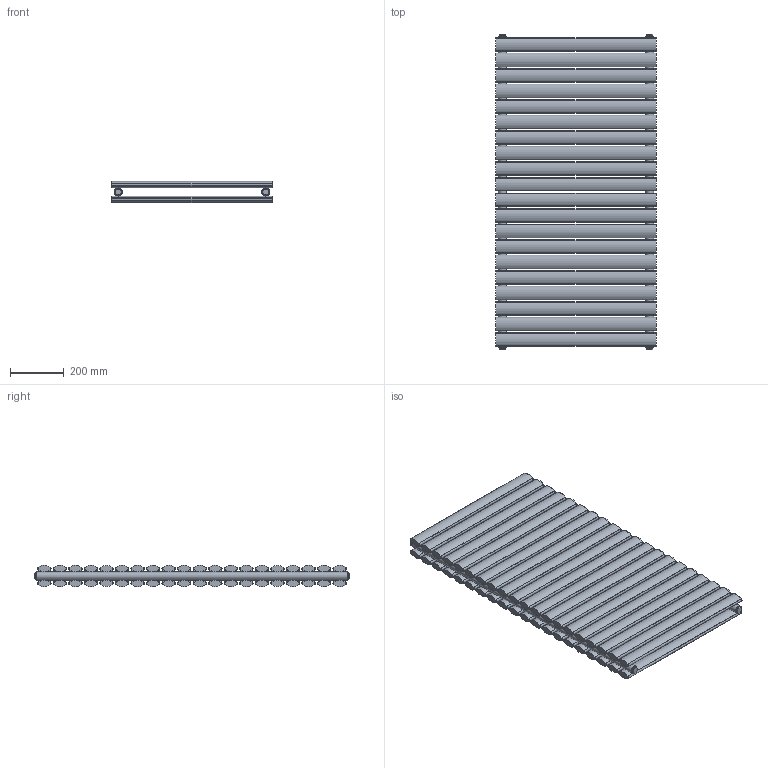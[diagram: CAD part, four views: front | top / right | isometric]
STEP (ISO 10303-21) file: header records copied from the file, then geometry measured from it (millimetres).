
FILE_DESCRIPTION(/* description */ (''),/* implementation_level */ '2;1');
FILE_NAME(/* name */ 'C:\Grzejniki\13DLUXRAD\pokojowe\FORTUNA\FORTUNA PODWÓJNA 600x1164.iam.stp',/* time_stamp */ '2016-06-28T17:31:56+02:00',/* author */ ('m.szydziak'),/* organization */ (''),/* preprocessor_version */ 'ST-DEVELOPER v16.5',/* originating_system */ 'Autodesk Inventor 2017',/* authorisation */ '');
FILE_SCHEMA (('AUTOMOTIVE_DESIGN { 1 0 10303 214 3 1 1 }'));
Length unit declared in the file: millimetre
Products named in the file (5): FORTUNA PODWÓJNA 600x1164; fi30x1,5x1164; 50x25x1,2x600; zaślepka fi30 G0,5inch; korek
Assembly tree (50 placements, depth 2):
  FORTUNA PODWÓJNA 600x1164
    fi30x1,5x1164  x2
    50x25x1,2x600  x40
    zaślepka fi30 G0,5inch  x4
    korek  x4
Bounding box: 600 x 1176 x 79.72 mm (x, y, z)
Volume: 3761452.3 mm3; surface area: 6157193.3 mm2
Topology: 50 solids, 50 shells, 676 faces, 1716 edges, 1220 vertices
Faces by surface type: cylinder 448, plane 228
Full cylindrical faces by diameter (mm): 5 x32, 5.8 x80, 18.631 x4, 24 x4, 27 x6, 30 x2
Entity records: 3295 total; most frequent: CARTESIAN_POINT 1558, DIRECTION 322, ORIENTED_EDGE 246, AXIS2_PLACEMENT_3D 145, EDGE_CURVE 123, EDGE_LOOP 116, VERTEX_POINT 103, FACE_BOUND 63
